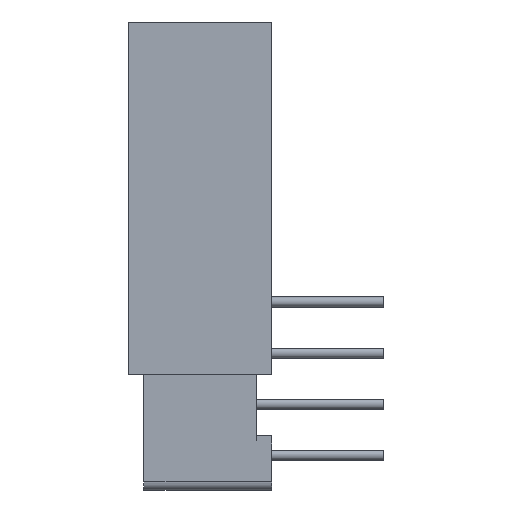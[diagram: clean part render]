
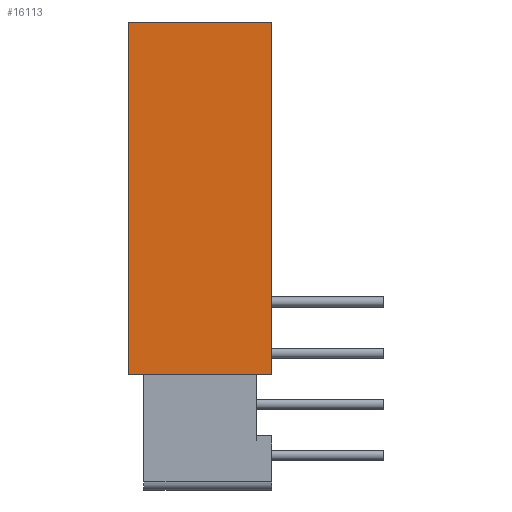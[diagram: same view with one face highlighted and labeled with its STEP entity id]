
A CAD part, left-side view. The second image highlights one B-rep face of the part: STEP entity #16113.
In plain terms, the highlighted planar face has unit normal (-1, 0, 0).
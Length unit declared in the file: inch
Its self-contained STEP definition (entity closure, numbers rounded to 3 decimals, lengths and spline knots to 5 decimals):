
#4437 = PLANE ( 'NONE',  #36229 ) ;
#4439 = CARTESIAN_POINT ( 'NONE',  ( -0.6625, 0.0675, -0.22 ) ) ;
#4444 = DIRECTION ( 'NONE',  ( -1., 0., 0. ) ) ;
#4445 = DIRECTION ( 'NONE',  ( 0., 0., 1. ) ) ;
#12013 = CARTESIAN_POINT ( 'NONE',  ( -0.6625, 0.0675, -0.345 ) ) ;
#12047 = CARTESIAN_POINT ( 'NONE',  ( -0.6625, -0.0725, -0.345 ) ) ;
#12057 = CARTESIAN_POINT ( 'NONE',  ( -0.6625, -0.0725, 0. ) ) ;
#12058 = CARTESIAN_POINT ( 'NONE',  ( -0.6625, 0.0675, 0. ) ) ;
#13048 = EDGE_CURVE ( 'NONE', #20944, #20909, #17458, .T. ) ;
#13063 = EDGE_CURVE ( 'NONE', #20944, #20954, #27686, .T. ) ;
#13065 = EDGE_CURVE ( 'NONE', #20955, #20954, #27688, .T. ) ;
#13066 = EDGE_CURVE ( 'NONE', #20909, #20955, #27691, .T. ) ;
#16113 = ADVANCED_FACE ( 'NONE', ( #38573 ), #4437, .T. ) ;
#17458 = LINE ( 'NONE', #26708, #17460 ) ;
#17460 = VECTOR ( 'NONE', #26668, 39.37008 ) ;
#18346 = EDGE_LOOP ( 'NONE', ( #21739, #21740, #21741, #21742 ) ) ;
#20909 = VERTEX_POINT ( 'NONE', #12013 ) ;
#20944 = VERTEX_POINT ( 'NONE', #12047 ) ;
#20954 = VERTEX_POINT ( 'NONE', #12057 ) ;
#20955 = VERTEX_POINT ( 'NONE', #12058 ) ;
#21739 = ORIENTED_EDGE ( 'NONE', *, *, #13063, .T. ) ;
#21740 = ORIENTED_EDGE ( 'NONE', *, *, #13065, .F. ) ;
#21741 = ORIENTED_EDGE ( 'NONE', *, *, #13066, .F. ) ;
#21742 = ORIENTED_EDGE ( 'NONE', *, *, #13048, .F. ) ;
#26668 = DIRECTION ( 'NONE',  ( 0., 1., 0. ) ) ;
#26708 = CARTESIAN_POINT ( 'NONE',  ( -0.6625, 0.0675, -0.345 ) ) ;
#26930 = CARTESIAN_POINT ( 'NONE',  ( -0.6625, -0.0725, -0.345 ) ) ;
#26935 = DIRECTION ( 'NONE',  ( 0., 0., 1. ) ) ;
#26938 = CARTESIAN_POINT ( 'NONE',  ( -0.6625, 0.0675, 0. ) ) ;
#26939 = DIRECTION ( 'NONE',  ( 0., -1., 0. ) ) ;
#26940 = CARTESIAN_POINT ( 'NONE',  ( -0.6625, 0.0675, -0.22 ) ) ;
#26942 = DIRECTION ( 'NONE',  ( 0., 0., 1. ) ) ;
#27686 = LINE ( 'NONE', #26930, #27687 ) ;
#27687 = VECTOR ( 'NONE', #26935, 39.37008 ) ;
#27688 = LINE ( 'NONE', #26938, #27692 ) ;
#27691 = LINE ( 'NONE', #26940, #27693 ) ;
#27692 = VECTOR ( 'NONE', #26939, 39.37008 ) ;
#27693 = VECTOR ( 'NONE', #26942, 39.37008 ) ;
#36229 = AXIS2_PLACEMENT_3D ( 'NONE', #4439, #4444, #4445 ) ;
#38573 = FACE_OUTER_BOUND ( 'NONE', #18346, .T. ) ;
